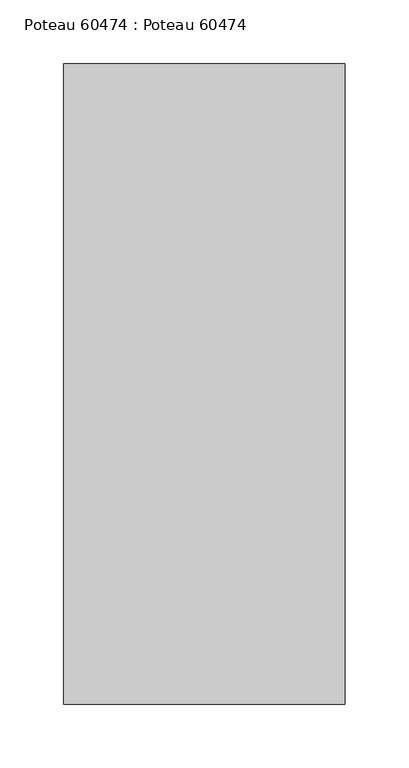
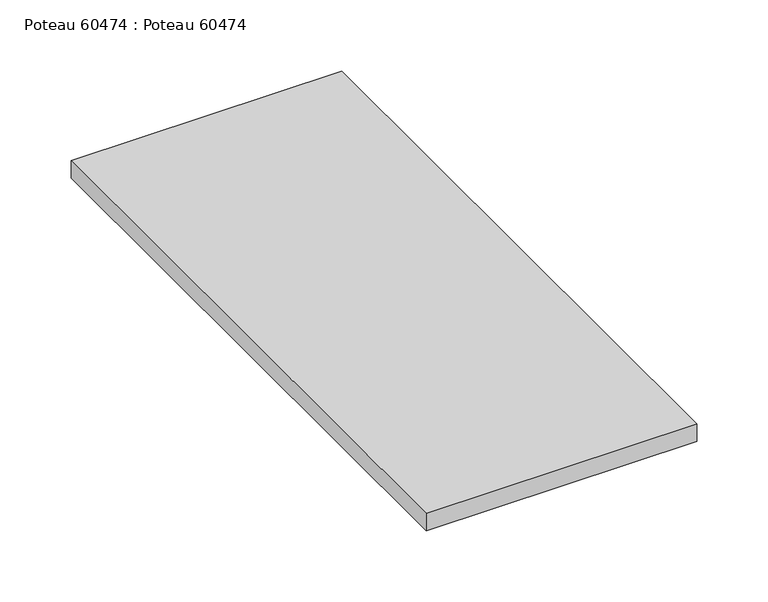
"""IFC4 building model written with IfcOpenShell, lengths in millimetres: beam geometry, Poteau 60474 : Poteau 60474."""

from ifc_helpers import new_model, si_unit, frame, origin, place, context, project, spatial, polyline, outline, extrude, source, transform, mapped, element, save


def poteau_60474_poteau_60474_d7c3bdda(model_context):
    return source(origin(), model_context, "Body", "SweptSolid", [
        extrude(outline(polyline([(109.9999999, -225.0), (109.9999999, -725.55), (-110.0000001, -725.55), (-110.0000001, -225.0), (109.9999999, -225.0)])), frame((0.0, 0.0, 8015.14), z_axis=(0.0, 0.0, 1.0), x_axis=(1.0, 0.0, 0.0)), (0.0, 0.0, 1.0), 15.0),
    ])


if __name__ == "__main__":
    model = new_model("IFC4")
    model_context = context("Model", 3, world=origin())
    ifc_project = project(units=[si_unit("LENGTHUNIT", "METRE", prefix="MILLI")], contexts=[model_context])
    site = spatial("IfcSite", under=ifc_project)
    building = spatial("IfcBuilding", under=site)
    placement = place(None, origin())
    poteau_60474_poteau_60474_shape = poteau_60474_poteau_60474_d7c3bdda(model_context)
    element("IfcBeam", 1, ObjectType="Poteau 60474 : Poteau 60474", at=placement, inside=building, context=model_context, shape_type="MappedRepresentation", body=[
        mapped(poteau_60474_poteau_60474_shape, transform((0.0, 0.0, 0.0), x_axis=(1.0, 0.0, 0.0), y_axis=(0.0, 1.0, 0.0), z_axis=(0.0, 0.0, 1.0))),
    ])
    save(model, "model.ifc")
